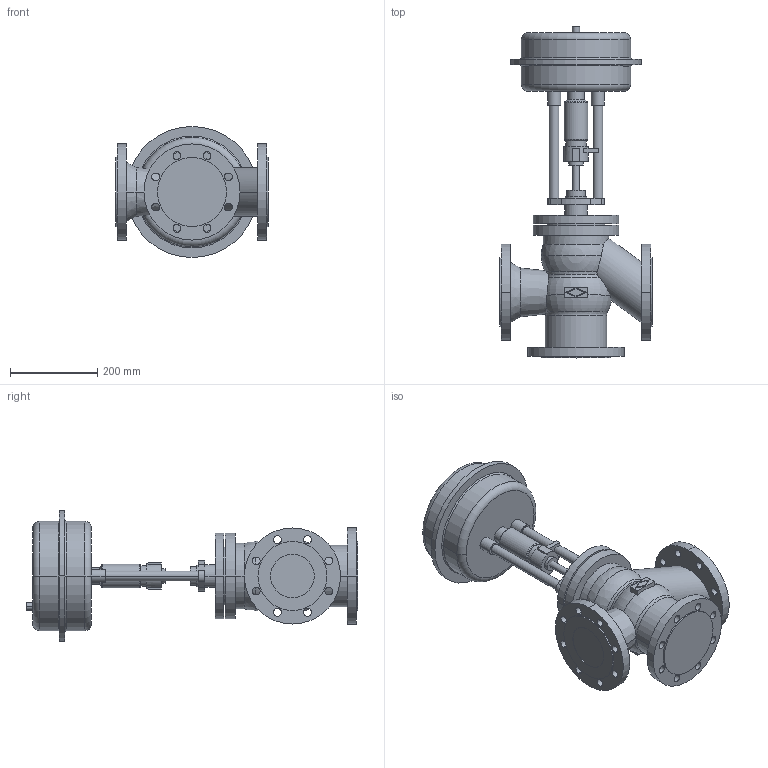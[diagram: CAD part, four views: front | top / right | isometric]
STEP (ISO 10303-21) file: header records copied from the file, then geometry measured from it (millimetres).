
FILE_DESCRIPTION(('OneSpaceDesigner STEP Export'),'2;1');
FILE_NAME('c000000668.stp','2006-09-19T10:04:12',(''),(''),'OneSpace Designer STEP processor for AP214 (Solid Model)','OneSpace Designer 13.20A 18-Aug-2005 (C) CoCreate Software GmbH','');
FILE_SCHEMA(('AUTOMOTIVE_DESIGN { 1 0 10303 214 1 1 1 1 }'));
Length unit declared in the file: millimetre
Products named in the file (2): 1; 2
Bounding box: 350 x 760.1 x 300 mm (x, y, z)
Volume: 17632259.1 mm3; surface area: 852910.4 mm2
Topology: 2 solids, 2 shells, 225 faces, 560 edges, 363 vertices
Faces by surface type: cylinder 114, plane 73, torus 26, cone 8, sphere 4
Entity records: 5994 total; most frequent: CARTESIAN_POINT 1157, ORIENTED_EDGE 1112, DIRECTION 848, EDGE_CURVE 556, VERTEX_POINT 363, AXIS2_PLACEMENT_3D 316, EDGE_LOOP 301, FACE_OUTER_BOUND 225
